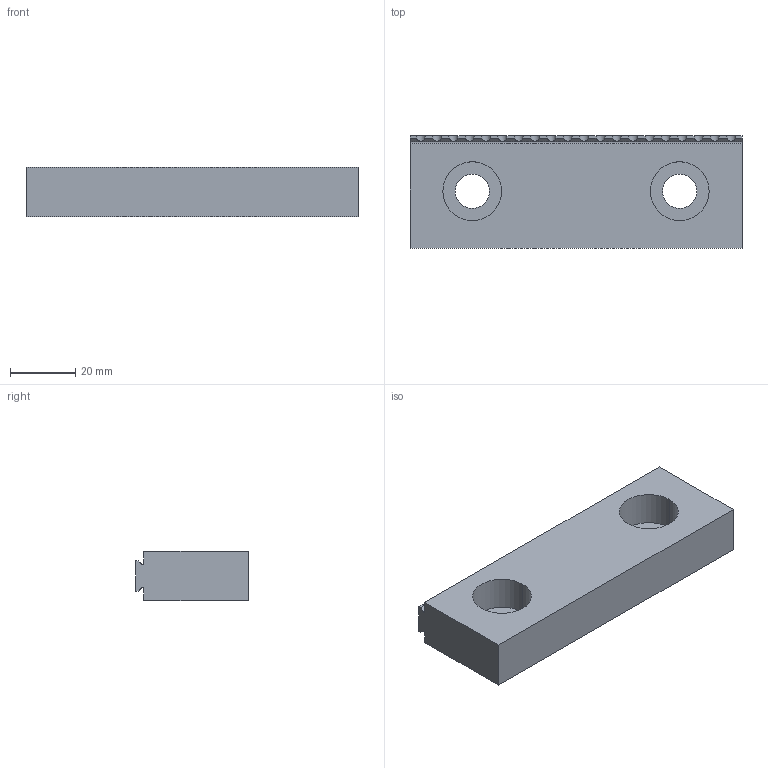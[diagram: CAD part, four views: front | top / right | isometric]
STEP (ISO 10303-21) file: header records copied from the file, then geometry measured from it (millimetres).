
FILE_DESCRIPTION (( 'STEP AP214' ), '1' );
FILE_NAME ('HMVJ-41.4HS [05-0054 ref].step', '2023-05-05T20:38:15', ( '' ), ( '' ), 'SwSTEP 2.0', 'SolidWorks 2022', '' );
FILE_SCHEMA (( 'AUTOMOTIVE_DESIGN' ));
Length unit declared in the file: millimetre
Products named in the file (1): HMVJ-41.4HS [05-0054 ref]
Bounding box: 101.6 x 34.5 x 15 mm (x, y, z)
Volume: 44649.7 mm3; surface area: 12417.7 mm2
Topology: 1 solids, 1 shells, 125 faces, 363 edges, 242 vertices
Faces by surface type: cylinder 71, plane 54
Entity records: 4931 total; most frequent: CARTESIAN_POINT 911, ORIENTED_EDGE 726, DIRECTION 637, EDGE_CURVE 363, VERTEX_POINT 242, LINE 221, VECTOR 221, AXIS2_PLACEMENT_3D 208
